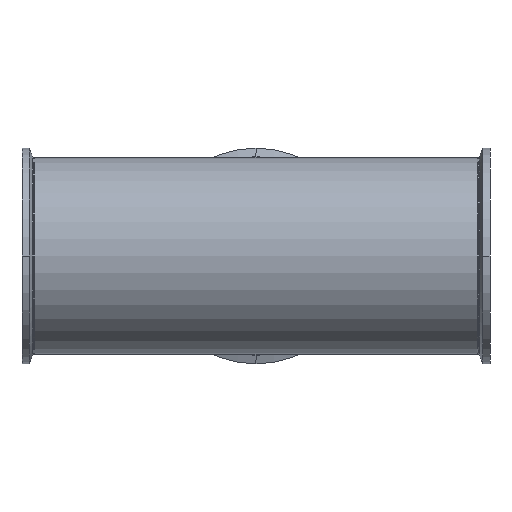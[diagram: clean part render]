
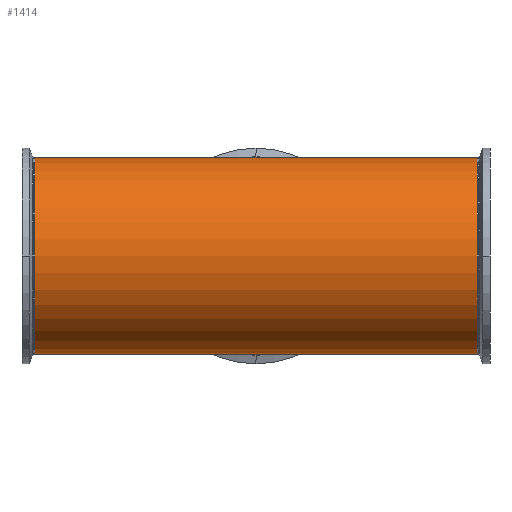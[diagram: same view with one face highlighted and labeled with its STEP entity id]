
A CAD part, front view. The second image highlights one B-rep face of the part: STEP entity #1414.
In plain terms, the highlighted cylindrical face has radius 76.2 mm (diameter 152.4 mm), a partial arc.
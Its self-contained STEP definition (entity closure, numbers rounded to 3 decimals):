
#4 = AXIS2_PLACEMENT_3D ( 'NONE', #6763, #3669, #345 ) ;
#192 = EDGE_CURVE ( 'NONE', #2383, #927, #5244, .T. ) ;
#219 = ORIENTED_EDGE ( 'NONE', *, *, #192, .F. ) ;
#345 = DIRECTION ( 'NONE',  ( 0., 0., 1. ) ) ;
#392 = ORIENTED_EDGE ( 'NONE', *, *, #5807, .T. ) ;
#476 = CIRCLE ( 'NONE', #4, 76.2 ) ;
#486 = LINE ( 'NONE', #1941, #1775 ) ;
#902 = CARTESIAN_POINT ( 'NONE',  ( 0., 0., 76.2 ) ) ;
#927 = VERTEX_POINT ( 'NONE', #1165 ) ;
#1000 = CARTESIAN_POINT ( 'NONE',  ( 171., 0., -76.2 ) ) ;
#1035 = VERTEX_POINT ( 'NONE', #902 ) ;
#1074 = LINE ( 'NONE', #5058, #5245 ) ;
#1110 = CARTESIAN_POINT ( 'NONE',  ( -171., 0., -76.2 ) ) ;
#1165 = CARTESIAN_POINT ( 'NONE',  ( 0., 0., -76.2 ) ) ;
#1222 = DIRECTION ( 'NONE',  ( -1., 0., 0. ) ) ;
#1297 = CARTESIAN_POINT ( 'NONE',  ( 386.526, 0., -76.2 ) ) ;
#1414 = ADVANCED_FACE ( 'NONE', ( #5389 ), #2381, .T. ) ;
#1540 = DIRECTION ( 'NONE',  ( -1., 0., 0. ) ) ;
#1670 = CARTESIAN_POINT ( 'NONE',  ( 386.526, 0., 76.2 ) ) ;
#1775 = VECTOR ( 'NONE', #2513, 1000. ) ;
#1869 = ORIENTED_EDGE ( 'NONE', *, *, #3289, .F. ) ;
#1941 = CARTESIAN_POINT ( 'NONE',  ( 386.526, 0., -76.2 ) ) ;
#1949 = AXIS2_PLACEMENT_3D ( 'NONE', #2604, #2355, #2625 ) ;
#1957 = VERTEX_POINT ( 'NONE', #2259 ) ;
#2103 = AXIS2_PLACEMENT_3D ( 'NONE', #2731, #6399, #3283 ) ;
#2142 = VECTOR ( 'NONE', #5953, 1000. ) ;
#2259 = CARTESIAN_POINT ( 'NONE',  ( 171., 0., 76.2 ) ) ;
#2355 = DIRECTION ( 'NONE',  ( -1., 0., 0. ) ) ;
#2381 = CYLINDRICAL_SURFACE ( 'NONE', #1949, 76.2 ) ;
#2383 = VERTEX_POINT ( 'NONE', #1000 ) ;
#2513 = DIRECTION ( 'NONE',  ( -1., 0., 0. ) ) ;
#2604 = CARTESIAN_POINT ( 'NONE',  ( 386.526, 0., 0. ) ) ;
#2622 = VERTEX_POINT ( 'NONE', #1110 ) ;
#2625 = DIRECTION ( 'NONE',  ( 0., 0., 1. ) ) ;
#2731 = CARTESIAN_POINT ( 'NONE',  ( -171., 0., 0. ) ) ;
#2842 = CIRCLE ( 'NONE', #2103, 76.2 ) ;
#3161 = EDGE_CURVE ( 'NONE', #1957, #1035, #4861, .T. ) ;
#3196 = ORIENTED_EDGE ( 'NONE', *, *, #4302, .T. ) ;
#3283 = DIRECTION ( 'NONE',  ( 0., 0., 1. ) ) ;
#3289 = EDGE_CURVE ( 'NONE', #927, #2622, #486, .T. ) ;
#3669 = DIRECTION ( 'NONE',  ( -1., 0., 0. ) ) ;
#3845 = VECTOR ( 'NONE', #1540, 1000. ) ;
#4302 = EDGE_CURVE ( 'NONE', #2383, #1957, #476, .T. ) ;
#4606 = ORIENTED_EDGE ( 'NONE', *, *, #3161, .T. ) ;
#4847 = EDGE_CURVE ( 'NONE', #1035, #5385, #1074, .T. ) ;
#4861 = LINE ( 'NONE', #1670, #2142 ) ;
#5058 = CARTESIAN_POINT ( 'NONE',  ( 386.526, 0., 76.2 ) ) ;
#5244 = LINE ( 'NONE', #1297, #3845 ) ;
#5245 = VECTOR ( 'NONE', #1222, 1000. ) ;
#5334 = EDGE_LOOP ( 'NONE', ( #219, #3196, #4606, #5970, #392, #1869 ) ) ;
#5385 = VERTEX_POINT ( 'NONE', #6619 ) ;
#5389 = FACE_OUTER_BOUND ( 'NONE', #5334, .T. ) ;
#5807 = EDGE_CURVE ( 'NONE', #5385, #2622, #2842, .T. ) ;
#5953 = DIRECTION ( 'NONE',  ( -1., 0., 0. ) ) ;
#5970 = ORIENTED_EDGE ( 'NONE', *, *, #4847, .T. ) ;
#6399 = DIRECTION ( 'NONE',  ( 1., 0., 0. ) ) ;
#6619 = CARTESIAN_POINT ( 'NONE',  ( -171., 0., 76.2 ) ) ;
#6763 = CARTESIAN_POINT ( 'NONE',  ( 171., 0., 0. ) ) ;
